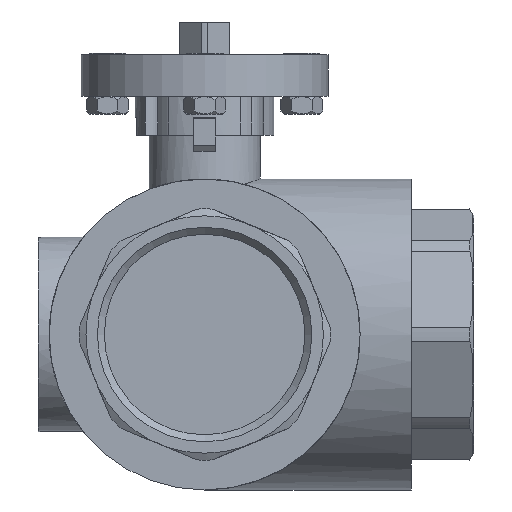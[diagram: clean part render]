
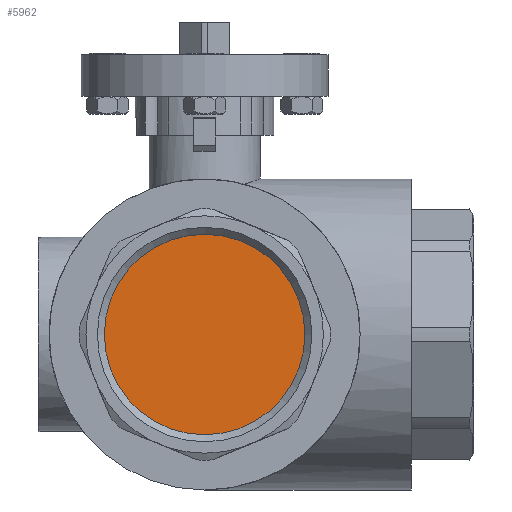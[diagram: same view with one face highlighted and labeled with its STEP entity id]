
A CAD part, left-side view. The second image highlights one B-rep face of the part: STEP entity #5962.
In plain terms, the highlighted planar face has unit normal (-1, 0, 0).
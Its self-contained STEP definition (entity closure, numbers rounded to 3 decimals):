
#1593=FACE_OUTER_BOUND('',#1959,.T.);
#1959=EDGE_LOOP('',(#5446));
#2164=CIRCLE('',#6471,36.115);
#2694=VERTEX_POINT('',#10724);
#3545=EDGE_CURVE('',#2694,#2694,#2164,.T.);
#5446=ORIENTED_EDGE('',*,*,#3545,.T.);
#5622=PLANE('',#6550);
#5962=ADVANCED_FACE('',(#1593),#5622,.F.);
#6471=AXIS2_PLACEMENT_3D('',#10726,#7834,#7835);
#6550=AXIS2_PLACEMENT_3D('',#11253,#8044,#8045);
#7834=DIRECTION('center_axis',(-1.,0.,0.));
#7835=DIRECTION('ref_axis',(0.,0.,
-1.));
#8044=DIRECTION('center_axis',(1.,0.,0.));
#8045=DIRECTION('ref_axis',(0.,0.,-1.));
#10724=CARTESIAN_POINT('',(-69.5,0.,36.115));
#10726=CARTESIAN_POINT('Origin',(-69.5,0.,0.));
#11253=CARTESIAN_POINT('Origin',(-69.5,0.,58.));
